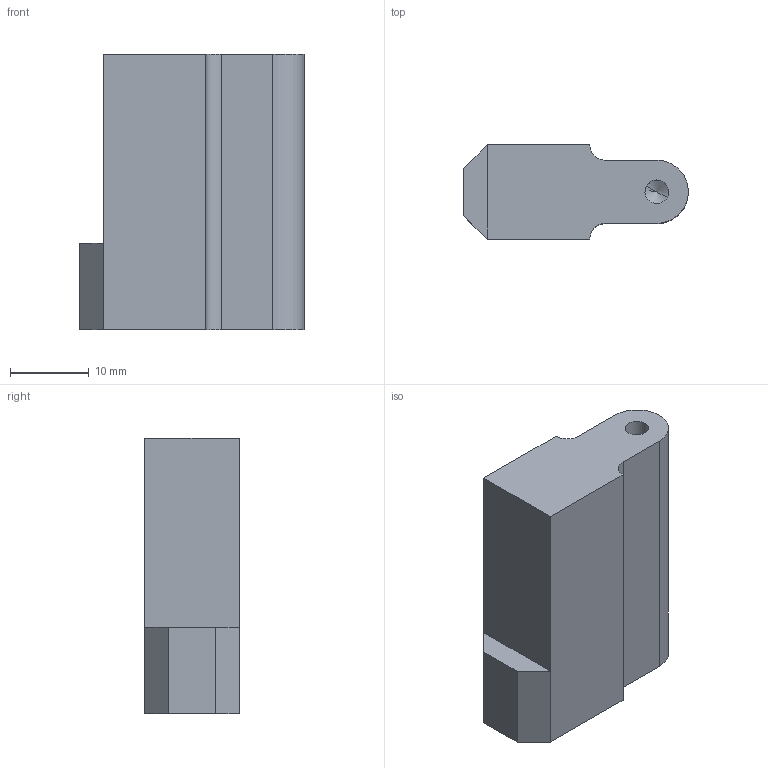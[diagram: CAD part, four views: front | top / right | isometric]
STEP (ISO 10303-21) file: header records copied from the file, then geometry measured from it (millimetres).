
FILE_DESCRIPTION(('CATIA V5 STEP Exchange','CAx-IF Rec.Pracs.--- Model Styling and Organization---1.5--- 2016-08-15','CAx-IF Rec.Pracs.---Supplemental Geometry---1.0---2011-11-01','CAx-IF Rec.Pracs.--- Composite Materials ---1.1---2010-07-15','CAx-IF Rec.Pracs.---External References---2.1---2005-01-19'),'2;1');
FILE_NAME('E:\WAT\Sprezarka\122_00_00_Tlocznik2\Tlocznik2_KPL\Tlocznik2_stp\122_01_05_Podnosnik.stp','2023-08-01T08:40:09+00:00',('none'),('none'),'CATIA Version 5-6 Release 2022 SP3','CATIA V5 STEP AP214 v2','none');
FILE_SCHEMA(('AUTOMOTIVE_DESIGN { 1 0 10303 214 1 1 1 1 }'));
Length unit declared in the file: millimetre
Products named in the file (1): 122_01_05_Podnosnik
Bounding box: 28.5 x 12 x 35 mm (x, y, z)
Volume: 7440.3 mm3; surface area: 3742 mm2
Topology: 1 solids, 1 shells, 21 faces, 50 edges, 31 vertices
Faces by surface type: plane 12, cylinder 7, cone 2
Entity records: 627 total; most frequent: CARTESIAN_POINT 98, ORIENTED_EDGE 96, DIRECTION 84, EDGE_CURVE 48, VECTOR 34, LINE 34, AXIS2_PLACEMENT_3D 33, VERTEX_POINT 31
